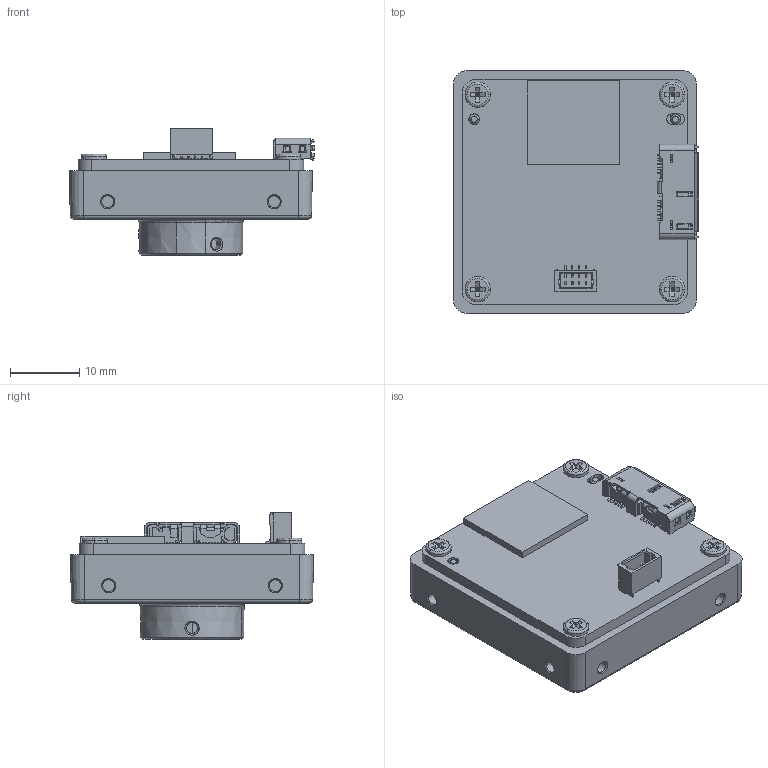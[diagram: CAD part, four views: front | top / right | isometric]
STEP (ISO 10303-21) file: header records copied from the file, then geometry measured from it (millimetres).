
FILE_DESCRIPTION((''),'2;1');
FILE_NAME('00-CB020-60UMC-S','2026-01-15T14:41:39',('pengxianzu'),(''),'CREO PARAMETRIC BY PTC INC, 2020044','CREO PARAMETRIC BY PTC INC, 2020044','');
FILE_SCHEMA(('CONFIG_CONTROL_DESIGN'));
Products named in the file (1): 00-CB020-60UMC-S
Bounding box: 35.32 x 35 x 18.22 mm (x, y, z)
Volume: 8255.8 mm3; surface area: 10588.3 mm2
Topology: 1 solids, 42 shells, 1914 faces, 5474 edges, 3529 vertices
Faces by surface type: plane 1127, cylinder 578, cone 120, torus 70, bspline 15, sphere 4
Entity records: 65420 total; most frequent: CARTESIAN_POINT 14523, ORIENTED_EDGE 10830, DIRECTION 10438, EDGE_CURVE 5474, VECTOR 3774, LINE 3774, VERTEX_POINT 3529, AXIS2_PLACEMENT_3D 3332
